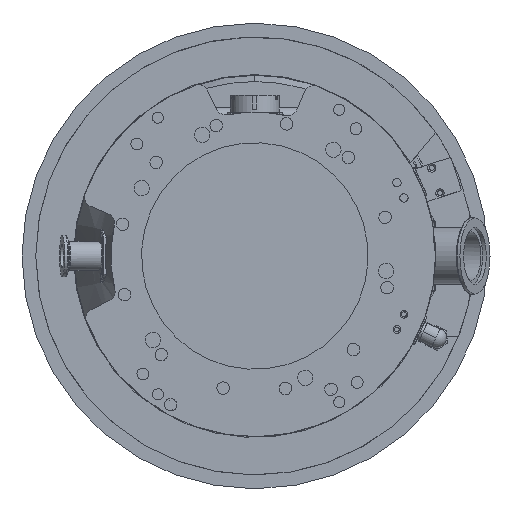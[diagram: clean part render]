
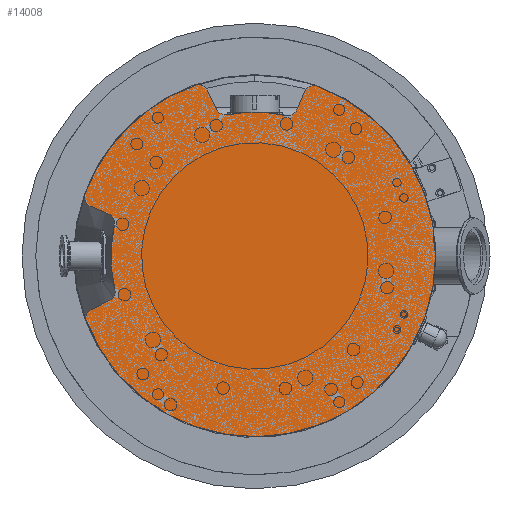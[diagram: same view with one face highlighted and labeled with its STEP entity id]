
A CAD part, front view. The second image highlights one B-rep face of the part: STEP entity #14008.
In plain terms, the highlighted planar face has unit normal (0, -1, 0).
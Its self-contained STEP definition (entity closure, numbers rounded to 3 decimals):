
#1272=CARTESIAN_POINT('',(0.,-99.,0.));
#1273=DIRECTION('',(0.,-1.,0.));
#1274=DIRECTION('',(-0.931,0.,-0.365));
#1275=AXIS2_PLACEMENT_3D('',#1272,#1273,#1274);
#1277=CARTESIAN_POINT('',(-114.534,-99.,-44.844));
#1278=DIRECTION('',(0.,-1.,0.));
#1279=DIRECTION('',(-0.446,0.,0.895));
#1280=AXIS2_PLACEMENT_3D('',#1277,#1278,#1279);
#1282=DIRECTION('',(-0.895,0.,-0.446));
#1283=VECTOR('',#1282,14.868);
#1284=CARTESIAN_POINT('',(-104.351,-99.,-31.945));
#1285=LINE('',#1284,#1283);
#1286=CARTESIAN_POINT('',(-107.474,-99.,-25.68));
#1287=DIRECTION('',(0.,1.,0.));
#1288=DIRECTION('',(0.973,0.,0.232));
#1289=AXIS2_PLACEMENT_3D('',#1286,#1287,#1288);
#1291=CARTESIAN_POINT('',(0.,-99.,0.));
#1292=DIRECTION('',(0.,-1.,0.));
#1293=DIRECTION('',(-0.977,0.,0.215));
#1294=AXIS2_PLACEMENT_3D('',#1291,#1292,#1293);
#1296=CARTESIAN_POINT('',(-107.912,-99.,23.776));
#1297=DIRECTION('',(0.,1.,0.));
#1298=DIRECTION('',(0.399,0.,0.917));
#1299=AXIS2_PLACEMENT_3D('',#1296,#1297,#1298);
#1301=DIRECTION('',(0.917,0.,-0.399));
#1302=VECTOR('',#1301,14.345);
#1303=CARTESIAN_POINT('',(-118.276,-99.,35.916));
#1304=LINE('',#1303,#1302);
#1305=CARTESIAN_POINT('',(-115.485,-99.,42.335));
#1306=DIRECTION('',(0.,-1.,0.));
#1307=DIRECTION('',(-0.939,0.,0.344));
#1308=AXIS2_PLACEMENT_3D('',#1305,#1306,#1307);
#1310=CARTESIAN_POINT('',(0.,-99.,0.));
#1311=DIRECTION('',(0.,-1.,0.));
#1312=DIRECTION('',(-0.329,0.,0.944));
#1313=AXIS2_PLACEMENT_3D('',#1310,#1311,#1312);
#1315=CARTESIAN_POINT('',(-40.503,-99.,116.14));
#1316=DIRECTION('',(0.,-1.,0.));
#1317=DIRECTION('',(0.895,0.,0.446));
#1318=AXIS2_PLACEMENT_3D('',#1315,#1316,#1317);
#1320=DIRECTION('',(-0.446,0.,0.895));
#1321=VECTOR('',#1320,15.541);
#1322=CARTESIAN_POINT('',(-27.304,-99.,105.355));
#1323=LINE('',#1322,#1321);
#1324=CARTESIAN_POINT('',(-21.039,-99.,108.479));
#1325=DIRECTION('',(0.,1.,0.));
#1326=DIRECTION('',(0.19,0.,-0.982));
#1327=AXIS2_PLACEMENT_3D('',#1324,#1325,#1326);
#1329=CARTESIAN_POINT('',(0.,-99.,0.));
#1330=DIRECTION('',(0.,-1.,0.));
#1331=DIRECTION('',(0.215,0.,0.977));
#1332=AXIS2_PLACEMENT_3D('',#1329,#1330,#1331);
#1334=CARTESIAN_POINT('',(23.776,-99.,107.912));
#1335=DIRECTION('',(0.,1.,0.));
#1336=DIRECTION('',(0.917,0.,-0.399));
#1337=AXIS2_PLACEMENT_3D('',#1334,#1335,#1336);
#1339=DIRECTION('',(-0.399,0.,-0.917));
#1340=VECTOR('',#1339,14.345);
#1341=CARTESIAN_POINT('',(35.916,-99.,118.276));
#1342=LINE('',#1341,#1340);
#1343=CARTESIAN_POINT('',(42.335,-99.,115.485));
#1344=DIRECTION('',(0.,-1.,0.));
#1345=DIRECTION('',(0.344,0.,0.939));
#1346=AXIS2_PLACEMENT_3D('',#1343,#1344,#1345);
#12698=CARTESIAN_POINT('',(-121.052,-99.,-47.396));
#12699=CARTESIAN_POINT('',(44.745,-99.,122.057));
#12700=VERTEX_POINT('',#12698);
#12701=VERTEX_POINT('',#12699);
#12702=CARTESIAN_POINT('',(35.916,-99.,118.276));
#12703=VERTEX_POINT('',#12702);
#12704=CARTESIAN_POINT('',(30.196,-99.,105.12));
#12705=VERTEX_POINT('',#12704);
#12706=CARTESIAN_POINT('',(22.27,-99.,101.076));
#12707=VERTEX_POINT('',#12706);
#12708=CARTESIAN_POINT('',(-19.706,-99.,101.607));
#12709=VERTEX_POINT('',#12708);
#12710=CARTESIAN_POINT('',(-27.304,-99.,105.355));
#12711=VERTEX_POINT('',#12710);
#12712=CARTESIAN_POINT('',(-34.238,-99.,119.264));
#12713=VERTEX_POINT('',#12712);
#12714=CARTESIAN_POINT('',(-42.808,-99.,122.75));
#12715=VERTEX_POINT('',#12714);
#12716=CARTESIAN_POINT('',(-122.057,-99.,44.745));
#12717=VERTEX_POINT('',#12716);
#12718=CARTESIAN_POINT('',(-118.276,-99.,35.916));
#12719=VERTEX_POINT('',#12718);
#12720=CARTESIAN_POINT('',(-105.12,-99.,30.196));
#12721=VERTEX_POINT('',#12720);
#12722=CARTESIAN_POINT('',(-101.076,-99.,22.27));
#12723=VERTEX_POINT('',#12722);
#12724=CARTESIAN_POINT('',(-100.666,-99.,-24.054));
#12725=VERTEX_POINT('',#12724);
#12726=CARTESIAN_POINT('',(-104.351,-99.,-31.945));
#12727=VERTEX_POINT('',#12726);
#12728=CARTESIAN_POINT('',(-117.657,-99.,-38.579));
#12729=VERTEX_POINT('',#12728);
#13973=CARTESIAN_POINT('',(0.,-99.,115.5));
#13974=DIRECTION('',(0.,-1.,0.));
#13975=DIRECTION('',(0.,0.,-1.));
#13976=AXIS2_PLACEMENT_3D('',#13973,#13974,#13975);
#13977=PLANE('',#13976);
#13979=ORIENTED_EDGE('',*,*,#13978,.F.);
#13981=ORIENTED_EDGE('',*,*,#13980,.F.);
#13983=ORIENTED_EDGE('',*,*,#13982,.F.);
#13985=ORIENTED_EDGE('',*,*,#13984,.F.);
#13986=ORIENTED_EDGE('',*,*,#13926,.F.);
#13987=ORIENTED_EDGE('',*,*,#13953,.F.);
#13988=ORIENTED_EDGE('',*,*,#13964,.F.);
#13990=ORIENTED_EDGE('',*,*,#13989,.F.);
#13992=ORIENTED_EDGE('',*,*,#13991,.F.);
#13994=ORIENTED_EDGE('',*,*,#13993,.F.);
#13996=ORIENTED_EDGE('',*,*,#13995,.F.);
#13998=ORIENTED_EDGE('',*,*,#13997,.F.);
#13999=ORIENTED_EDGE('',*,*,#13761,.F.);
#14001=ORIENTED_EDGE('',*,*,#14000,.F.);
#14003=ORIENTED_EDGE('',*,*,#14002,.F.);
#14005=ORIENTED_EDGE('',*,*,#14004,.F.);
#14006=EDGE_LOOP('',(#13979,#13981,#13983,#13985,#13986,#13987,#13988,#13990,
#13992,#13994,#13996,#13998,#13999,#14001,#14003,#14005));
#14007=FACE_OUTER_BOUND('',#14006,.F.);
#14008=ADVANCED_FACE('',(#14007),#13977,.T.);
#1276=CIRCLE('',#1275,130.);
#1281=CIRCLE('',#1280,7.);
#1290=CIRCLE('',#1289,7.);
#1295=CIRCLE('',#1294,103.5);
#1300=CIRCLE('',#1299,7.);
#1309=CIRCLE('',#1308,7.);
#1314=CIRCLE('',#1313,130.);
#1319=CIRCLE('',#1318,7.);
#1328=CIRCLE('',#1327,7.);
#1333=CIRCLE('',#1332,103.5);
#1338=CIRCLE('',#1337,7.);
#1347=CIRCLE('',#1346,7.);
#13761=EDGE_CURVE('',#12707,#12709,#1333,.T.);
#13926=EDGE_CURVE('',#12723,#12725,#1295,.T.);
#13953=EDGE_CURVE('',#12721,#12723,#1300,.T.);
#13964=EDGE_CURVE('',#12719,#12721,#1304,.T.);
#13978=EDGE_CURVE('',#12700,#12701,#1276,.T.);
#13980=EDGE_CURVE('',#12729,#12700,#1281,.T.);
#13982=EDGE_CURVE('',#12727,#12729,#1285,.T.);
#13984=EDGE_CURVE('',#12725,#12727,#1290,.T.);
#13989=EDGE_CURVE('',#12717,#12719,#1309,.T.);
#13991=EDGE_CURVE('',#12715,#12717,#1314,.T.);
#13993=EDGE_CURVE('',#12713,#12715,#1319,.T.);
#13995=EDGE_CURVE('',#12711,#12713,#1323,.T.);
#13997=EDGE_CURVE('',#12709,#12711,#1328,.T.);
#14000=EDGE_CURVE('',#12705,#12707,#1338,.T.);
#14002=EDGE_CURVE('',#12703,#12705,#1342,.T.);
#14004=EDGE_CURVE('',#12701,#12703,#1347,.T.);
